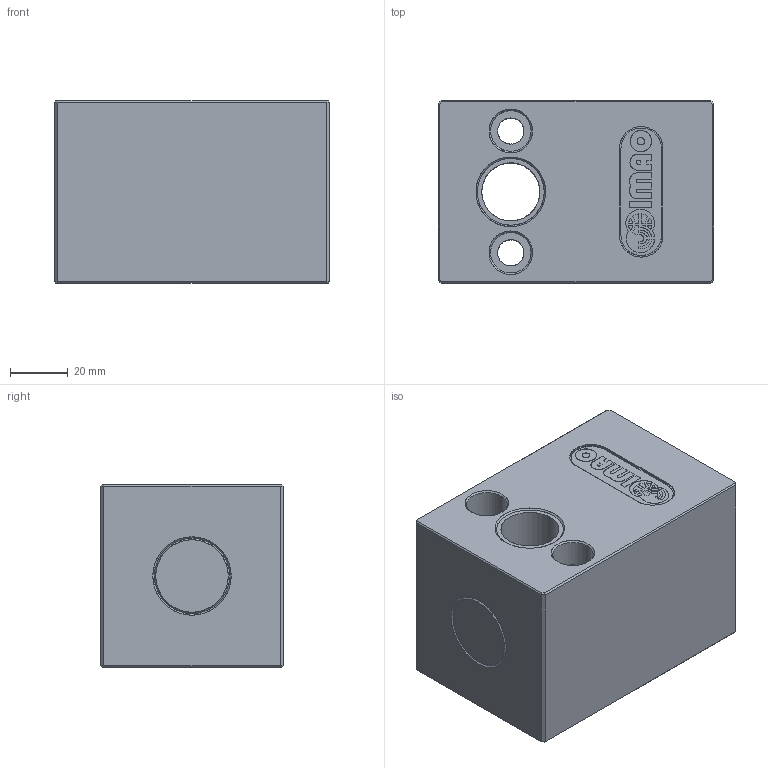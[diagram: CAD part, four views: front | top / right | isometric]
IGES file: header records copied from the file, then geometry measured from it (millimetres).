
Start section: SolidWorks IGES file using analytic representation for surfaces
Global section: file name: X:\11_SW2020-Inv2020\00_全2021-11新製品まで\p\PSLC20-3M\pslc20-3m.IGS; native system: SolidWorks 2020; preprocessor: SolidWorks 2020; author: ImaoCorp; date: 211026.140948; units: millimetre
Bounding box: 95 x 63 x 63 mm (x, y, z)
Surface area: 40332.2 mm2 (no closed solid volume)
Topology: 0 solids, 0 shells, 219 faces, 2872 edges, 2872 vertices
Faces by surface type: bspline 118, revolution 101
